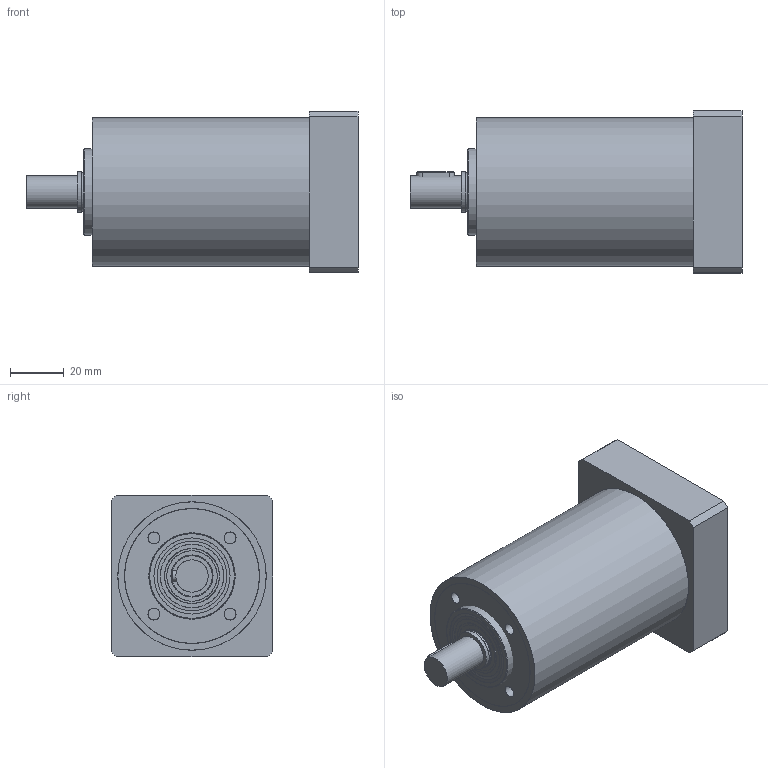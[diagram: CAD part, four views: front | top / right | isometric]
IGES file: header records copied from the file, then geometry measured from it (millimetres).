
Global section: file name: D:\ASSYCONF\WORK_DIRS\TEMP_#3\E00017964713MP040509080621_iges3D.igs; native system: NX V5.0; preprocessor: UGS NX IGES V5.0; date: 20090504.080743; units: millimetre
Bounding box: 123.1 x 60 x 60 mm (x, y, z)
Surface area: 62068.3 mm2 (no closed solid volume)
Topology: 0 solids, 0 shells, 140 faces, 2621 edges, 2541 vertices
Faces by surface type: revolution 90, extrusion 50
